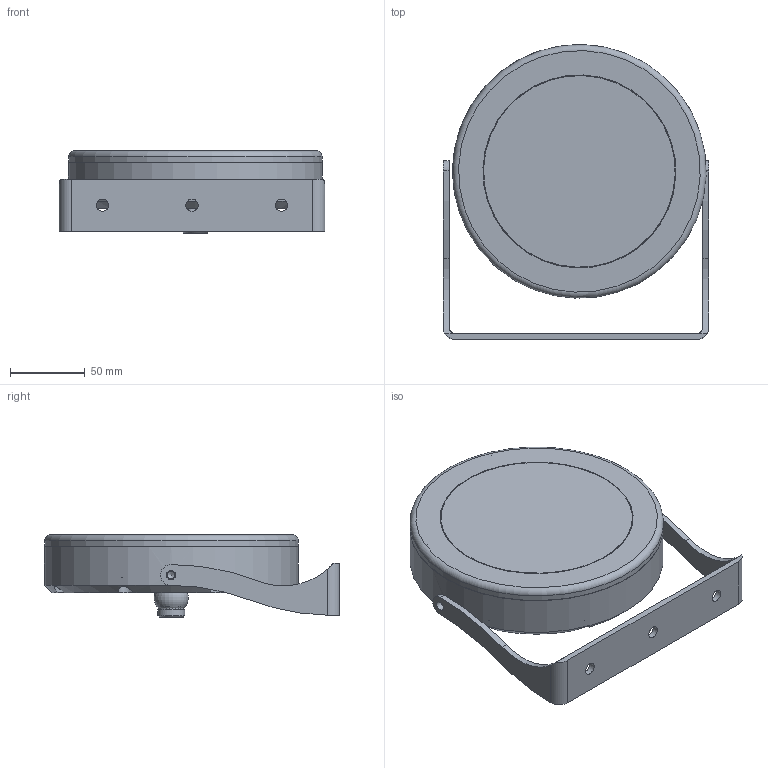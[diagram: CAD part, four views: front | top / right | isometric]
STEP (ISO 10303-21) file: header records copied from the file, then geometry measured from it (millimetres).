
FILE_DESCRIPTION(/* description */ ('Alibre Inc.'),/* implementation_level */ '2;1');
FILE_NAME(/* name */ 'export-D818502E-426E-4141-A0AB-C729E11B6878',/* time_stamp */ '2025-04-09T09:03:30+02:00',/* author */ (''),/* organization */ (''),/* preprocessor_version */ 'ST-DEVELOPER v17',/* originating_system */ 'Alibre',/* authorisation */ '');
FILE_SCHEMA (('CONFIG_CONTROL_DESIGN'));
Length unit declared in the file: millimetre
Products named in the file (9): ID_1
Bounding box: 178 x 197.85 x 55.33 mm (x, y, z)
Volume: 690157.2 mm3; surface area: 185650.7 mm2
Topology: 7 solids, 7 shells, 336 faces, 823 edges, 548 vertices
Faces by surface type: plane 181, cylinder 112, cone 27, bspline 14, torus 2
Full cylindrical faces by diameter (mm): 1.351 x1, 1.796 x1, 2.1 x12, 2.731 x1, 4.917 x8, 5 x2, 6.2 x10, 8.2 x3, 8.5 x1, 8.759 x1, 10.5 x8, 10.959 x1, 11.046 x1, 12 x1, 12.059 x2, 12.796 x1, 14 x1, 16.459 x1, 17 x1, 18 x1, 18.059 x1, 20 x1, 30 x4, 128.5 x1, 129 x1, 136 x1, 138.2 x1, 140 x2, 147 x2, 150 x2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
Entity records: 10543 total; most frequent: CARTESIAN_POINT 2650, ORIENTED_EDGE 1324, DIRECTION 1269, EDGE_CURVE 662, AXIS2_PLACEMENT_3D 550, FACE_BOUND 533, EDGE_LOOP 523, VERTEX_POINT 501
